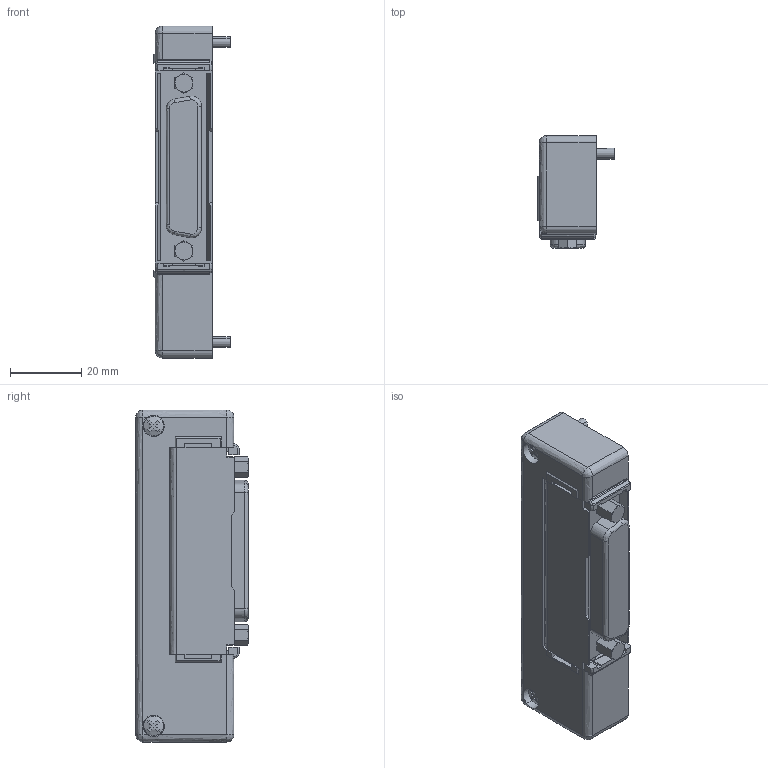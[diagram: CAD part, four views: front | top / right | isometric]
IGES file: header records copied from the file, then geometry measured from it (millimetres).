
Start section: ------------------------------------------------------------------------
Global section: file name: D:\ICADMX\tmp\trans3d_spg\CVICAD46.2900.FZX-D2x0-N_31161.igs; native system: spGate; preprocessor: ver12.6.6; author: Unknown; organization: Unknown; date: 200902.143739; units: millimetre
Bounding box: 21.4 x 31.5 x 93 mm (x, y, z)
Volume: 35992.8 mm3; surface area: 14069.7 mm2
Topology: 2 solids, 2 shells, 309 faces, 882 edges, 560 vertices
Faces by surface type: bspline 309
